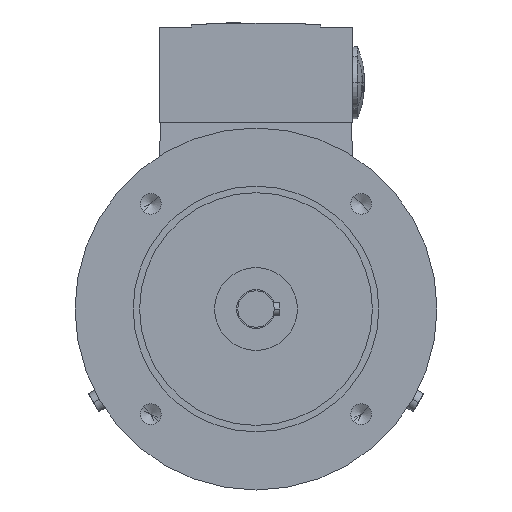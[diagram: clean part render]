
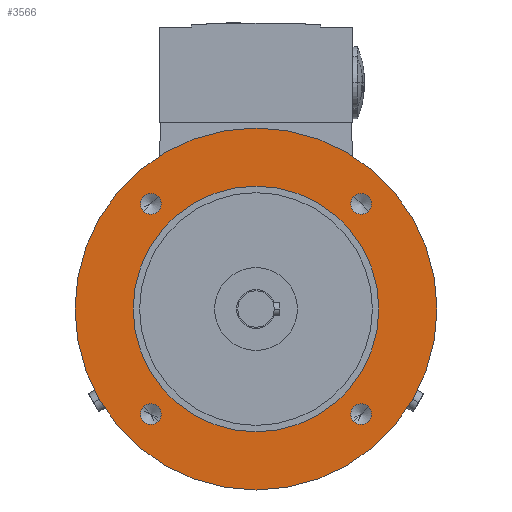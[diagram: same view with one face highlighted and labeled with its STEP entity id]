
A CAD part, left-side view. The second image highlights one B-rep face of the part: STEP entity #3566.
In plain terms, the highlighted planar face has unit normal (-1, 0, 0).
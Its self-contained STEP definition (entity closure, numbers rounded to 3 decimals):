
#2416=EDGE_CURVE('',#3452,#2840,#6596,.T.);
#2738=VERTEX_POINT('',#6944);
#2840=VERTEX_POINT('',#7053);
#2864=VERTEX_POINT('',#7079);
#3196=VERTEX_POINT('',#7446);
#3334=VERTEX_POINT('',#7602);
#3360=EDGE_CURVE('',#4602,#2738,#7629,.T.);
#3452=VERTEX_POINT('',#7728);
#3566=ADVANCED_FACE('',(#7851,#7852,#7853,#7854,#7855,#7856),#7857,.T.);
#4046=EDGE_CURVE('',#4592,#4134,#8383,.T.);
#4104=EDGE_CURVE('',#4134,#4592,#8443,.T.);
#4134=VERTEX_POINT('',#8476);
#4230=EDGE_CURVE('',#3334,#3196,#8582,.T.);
#4552=EDGE_CURVE('',#5018,#4892,#8927,.T.);
#4580=VERTEX_POINT('',#8956);
#4592=VERTEX_POINT('',#8970);
#4602=VERTEX_POINT('',#8981);
#4660=EDGE_CURVE('',#3196,#3334,#9048,.T.);
#4836=EDGE_CURVE('',#4892,#5018,#9237,.T.);
#4892=VERTEX_POINT('',#9296);
#5018=VERTEX_POINT('',#9433);
#5036=EDGE_CURVE('',#2864,#4580,#9453,.T.);
#5042=EDGE_CURVE('',#2738,#4602,#9459,.T.);
#5964=EDGE_CURVE('',#2840,#3452,#10465,.T.);
#6030=EDGE_CURVE('',#4580,#2864,#10539,.T.);
#6596=CIRCLE('',#11324,4.0);
#6944=CARTESIAN_POINT('',(-23.0,-43.487,-37.83));
#7053=CARTESIAN_POINT('',(-23.0,43.487,-37.83));
#7079=CARTESIAN_POINT('',(-23.0,0.0,70.0));
#7446=CARTESIAN_POINT('',(-23.0,-37.83,43.487));
#7602=CARTESIAN_POINT('',(-23.0,-43.487,37.83));
#7629=CIRCLE('',#12886,4.0);
#7728=CARTESIAN_POINT('',(-23.0,37.83,-43.487));
#7851=FACE_BOUND('',#13262,.T.);
#7852=FACE_BOUND('',#13263,.T.);
#7853=FACE_BOUND('',#13264,.T.);
#7854=FACE_BOUND('',#13265,.T.);
#7855=FACE_OUTER_BOUND('',#13266,.T.);
#7856=FACE_BOUND('',#13267,.T.);
#7857=PLANE('',#13268);
#8383=CIRCLE('',#14070,47.5);
#8443=CIRCLE('',#14165,47.5);
#8476=CARTESIAN_POINT('',(-23.0,0.0,47.5));
#8582=CIRCLE('',#14363,4.0);
#8927=CIRCLE('',#14903,4.0);
#8956=CARTESIAN_POINT('',(-23.0,0.,-70.0));
#8970=CARTESIAN_POINT('',(-23.0,0.,-47.5));
#8981=CARTESIAN_POINT('',(-23.0,-37.83,-43.487));
#9048=CIRCLE('',#15099,4.0);
#9237=CIRCLE('',#15378,4.0);
#9296=CARTESIAN_POINT('',(-23.0,37.83,43.487));
#9433=CARTESIAN_POINT('',(-23.0,43.487,37.83));
#9453=CIRCLE('',#15705,70.0);
#9459=CIRCLE('',#15715,4.0);
#10465=CIRCLE('',#17313,4.0);
#10539=CIRCLE('',#17447,70.0);
#11324=AXIS2_PLACEMENT_3D('',#18274,#18275,#18276);
#12886=AXIS2_PLACEMENT_3D('',#19424,#19425,#19426);
#13262=EDGE_LOOP('',(#19650,#19651));
#13263=EDGE_LOOP('',(#19652,#19653));
#13264=EDGE_LOOP('',(#19654,#19655));
#13265=EDGE_LOOP('',(#19656,#19657));
#13266=EDGE_LOOP('',(#19658,#19659));
#13267=EDGE_LOOP('',(#19660,#19661));
#13268=AXIS2_PLACEMENT_3D('',#19662,#19663,#19664);
#14070=AXIS2_PLACEMENT_3D('',#20248,#20249,#20250);
#14165=AXIS2_PLACEMENT_3D('',#20287,#20288,#20289);
#14363=AXIS2_PLACEMENT_3D('',#20464,#20465,#20466);
#14903=AXIS2_PLACEMENT_3D('',#20821,#20822,#20823);
#15099=AXIS2_PLACEMENT_3D('',#20968,#20969,#20970);
#15378=AXIS2_PLACEMENT_3D('',#21131,#21132,#21133);
#15705=AXIS2_PLACEMENT_3D('',#21347,#21348,#21349);
#15715=AXIS2_PLACEMENT_3D('',#21354,#21355,#21356);
#17313=AXIS2_PLACEMENT_3D('',#22475,#22476,#22477);
#17447=AXIS2_PLACEMENT_3D('',#22555,#22556,#22557);
#18274=CARTESIAN_POINT('',(-23.0,40.659,-40.659));
#18275=DIRECTION('',(1.0,0.0,-0.0));
#18276=DIRECTION('',(0.0,0.707,0.707));
#19424=CARTESIAN_POINT('',(-23.0,-40.659,-40.659));
#19425=DIRECTION('',(1.0,0.0,0.0));
#19426=DIRECTION('',(0.0,0.707,-0.707));
#19650=ORIENTED_EDGE('',*,*,#4230,.T.);
#19651=ORIENTED_EDGE('',*,*,#4660,.T.);
#19652=ORIENTED_EDGE('',*,*,#4836,.T.);
#19653=ORIENTED_EDGE('',*,*,#4552,.T.);
#19654=ORIENTED_EDGE('',*,*,#5964,.T.);
#19655=ORIENTED_EDGE('',*,*,#2416,.T.);
#19656=ORIENTED_EDGE('',*,*,#3360,.T.);
#19657=ORIENTED_EDGE('',*,*,#5042,.T.);
#19658=ORIENTED_EDGE('',*,*,#5036,.F.);
#19659=ORIENTED_EDGE('',*,*,#6030,.F.);
#19660=ORIENTED_EDGE('',*,*,#4104,.T.);
#19661=ORIENTED_EDGE('',*,*,#4046,.T.);
#19662=CARTESIAN_POINT('',(-23.0,0.0,58.75));
#19663=DIRECTION('',(-1.0,-0.0,-0.0));
#19664=DIRECTION('',(0.0,0.0,-1.0));
#20248=CARTESIAN_POINT('',(-23.0,0.0,0.0));
#20249=DIRECTION('',(1.0,0.0,-0.0));
#20250=DIRECTION('',(0.0,0.0,1.0));
#20287=CARTESIAN_POINT('',(-23.0,0.0,0.0));
#20288=DIRECTION('',(1.0,0.0,-0.0));
#20289=DIRECTION('',(0.0,0.0,1.0));
#20464=CARTESIAN_POINT('',(-23.0,-40.659,40.659));
#20465=DIRECTION('',(1.0,0.0,0.0));
#20466=DIRECTION('',(0.0,-0.707,-0.707));
#20821=CARTESIAN_POINT('',(-23.0,40.659,40.659));
#20822=DIRECTION('',(1.0,0.0,0.0));
#20823=DIRECTION('',(0.0,-0.707,0.707));
#20968=CARTESIAN_POINT('',(-23.0,-40.659,40.659));
#20969=DIRECTION('',(1.0,0.0,0.0));
#20970=DIRECTION('',(0.0,-0.707,-0.707));
#21131=CARTESIAN_POINT('',(-23.0,40.659,40.659));
#21132=DIRECTION('',(1.0,0.0,0.0));
#21133=DIRECTION('',(0.0,-0.707,0.707));
#21347=CARTESIAN_POINT('',(-23.0,0.0,0.0));
#21348=DIRECTION('',(1.0,0.0,-0.0));
#21349=DIRECTION('',(0.0,0.0,1.0));
#21354=CARTESIAN_POINT('',(-23.0,-40.659,-40.659));
#21355=DIRECTION('',(1.0,0.0,0.0));
#21356=DIRECTION('',(0.0,0.707,-0.707));
#22475=CARTESIAN_POINT('',(-23.0,40.659,-40.659));
#22476=DIRECTION('',(1.0,0.0,-0.0));
#22477=DIRECTION('',(0.0,0.707,0.707));
#22555=CARTESIAN_POINT('',(-23.0,0.0,0.0));
#22556=DIRECTION('',(1.0,0.0,-0.0));
#22557=DIRECTION('',(0.0,0.0,1.0));
